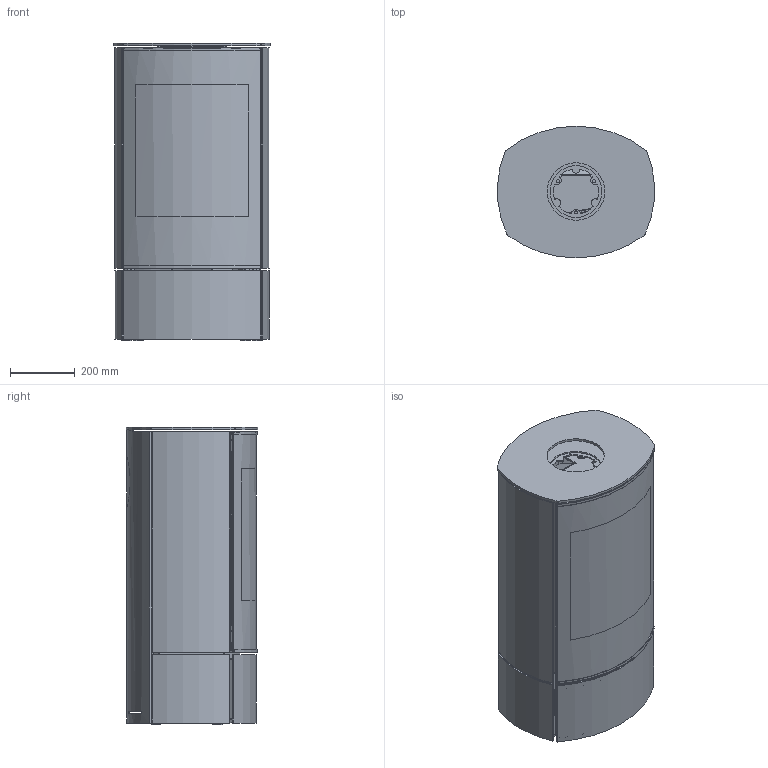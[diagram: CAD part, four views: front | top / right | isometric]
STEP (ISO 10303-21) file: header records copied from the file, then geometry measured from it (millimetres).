
FILE_DESCRIPTION(/* description */ (''),/* implementation_level */ '2;1');
FILE_NAME(/* name */ '14 Caro 90 Gas_14-0103.stp',/* time_stamp */ '2023-11-16T12:43:48+01:00',/* author */ ('ksj'),/* organization */ (''),/* preprocessor_version */ 'ST-DEVELOPER v19.2',/* originating_system */ 'Autodesk Inventor 2023',/* authorisation */ '');
FILE_SCHEMA (('AUTOMOTIVE_DESIGN { 1 0 10303 214 3 1 1 }'));
Products named in the file (1): 14 Caro 90 Gas_14-0103
Bounding box: 484.89 x 407 x 920 mm (x, y, z)
Volume: 15166240.7 mm3; surface area: 7352627 mm2
Topology: 54 solids, 54 shells, 3196 faces, 8718 edges, 5592 vertices
Faces by surface type: plane 2079, cylinder 1011, bspline 82, torus 18, cone 4, sphere 2
Full cylindrical faces by diameter (mm): 10 x4, 20 x3, 100 x1, 111 x1, 153.5 x2, 160 x1, 178 x1
Entity records: 111967 total; most frequent: CARTESIAN_POINT 26353, ORIENTED_EDGE 17420, DIRECTION 16799, EDGE_CURVE 8710, LINE 6159, VECTOR 6159, VERTEX_POINT 5588, AXIS2_PLACEMENT_3D 5320
